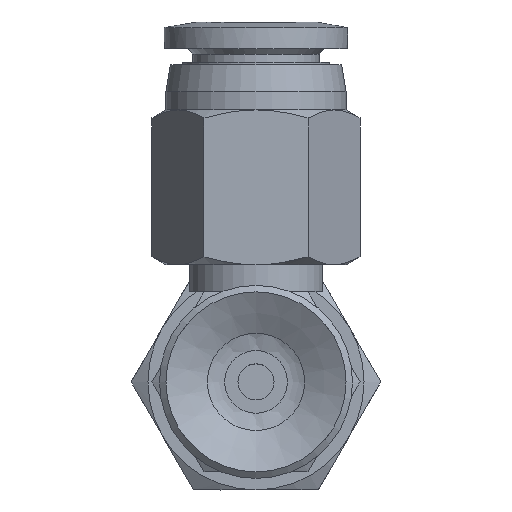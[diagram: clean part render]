
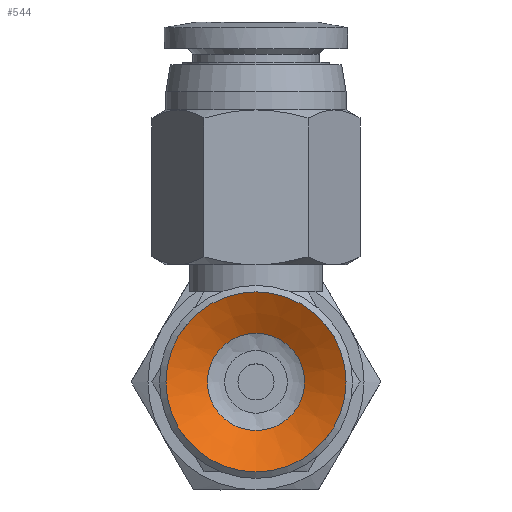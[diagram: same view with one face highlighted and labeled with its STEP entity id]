
A CAD part, front view. The second image highlights one B-rep face of the part: STEP entity #544.
In plain terms, the highlighted conical face has half-angle 61.39 degrees and reference radius 2.25 mm.
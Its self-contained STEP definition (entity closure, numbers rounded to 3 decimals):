
#544=ADVANCED_FACE('',(#830,#831),#832,.F.);
#830=FACE_BOUND('',#1223,.T.);
#831=FACE_OUTER_BOUND('',#1224,.T.);
#832=CONICAL_SURFACE('',#1225,2.25,1.071);
#1223=EDGE_LOOP('',(#2234));
#1224=EDGE_LOOP('',(#2235));
#1225=AXIS2_PLACEMENT_3D('',#2236,#2237,#2238);
#2234=ORIENTED_EDGE('',*,*,#2787,.T.);
#2235=ORIENTED_EDGE('',*,*,#2788,.T.);
#2236=CARTESIAN_POINT('',(0.0,1.5,0.0));
#2237=DIRECTION('',(-0.0,-1.0,0.));
#2238=DIRECTION('',(0.0,0.,-1.0));
#2787=EDGE_CURVE('',#3162,#3162,#3163,.T.);
#2788=EDGE_CURVE('',#3164,#3164,#3165,.T.);
#3162=VERTEX_POINT('',#4000);
#3163=CIRCLE('',#4001,2.698);
#3164=VERTEX_POINT('',#4002);
#3165=CIRCLE('',#4003,5.);
#4000=CARTESIAN_POINT('',(0.0,1.256,-2.698));
#4001=AXIS2_PLACEMENT_3D('',#4738,#4739,#4740);
#4002=CARTESIAN_POINT('',(0.0,0.,-5.));
#4003=AXIS2_PLACEMENT_3D('',#4741,#4742,#4743);
#4738=CARTESIAN_POINT('',(0.0,1.256,0.0));
#4739=DIRECTION('',(0.0,1.0,0.));
#4740=DIRECTION('',(0.0,0.,-1.0));
#4741=CARTESIAN_POINT('',(0.0,0.0,0.0));
#4742=DIRECTION('',(0.0,-1.0,0.));
#4743=DIRECTION('',(0.0,0.,-1.0));
